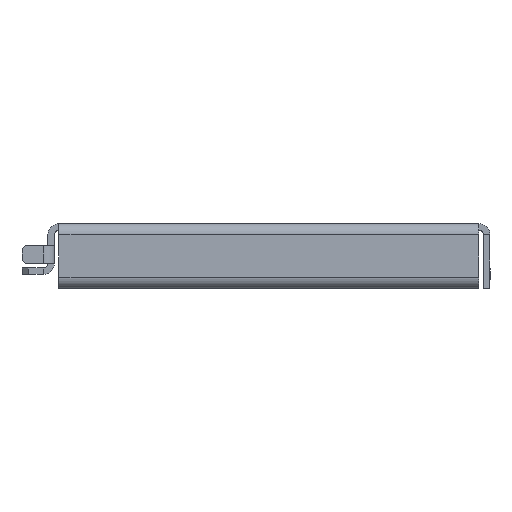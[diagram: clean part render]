
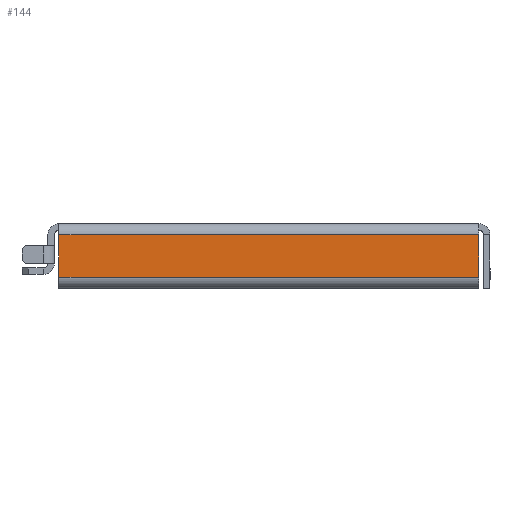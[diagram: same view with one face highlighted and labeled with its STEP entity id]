
A CAD part, front view. The second image highlights one B-rep face of the part: STEP entity #144.
In plain terms, the highlighted planar face has unit normal (0, -1, 0).
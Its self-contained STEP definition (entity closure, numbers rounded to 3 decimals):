
#144=ADVANCED_FACE('',(#1014),#1016,.T.);
#1014=FACE_BOUND('',#1015,.T.);
#1015=EDGE_LOOP('',(#1997,#1998,#1999,#2000));
#1016=PLANE('',#1017);
#1017=AXIS2_PLACEMENT_3D('',#1018,#1019,#1020);
#1018=CARTESIAN_POINT('',(0.,-73.5,0.));
#1019=DIRECTION('',(0.,-1.,0.));
#1020=DIRECTION('',(0.,0.,-1.));
#1997=ORIENTED_EDGE('',*,*,#2627,.F.);
#1998=ORIENTED_EDGE('',*,*,#2621,.T.);
#1999=ORIENTED_EDGE('',*,*,#2623,.F.);
#2000=ORIENTED_EDGE('',*,*,#2629,.F.);
#2621=EDGE_CURVE('',#3206,#3213,#3217,.T.);
#2623=EDGE_CURVE('',#3219,#3213,#3220,.T.);
#2627=EDGE_CURVE('',#3206,#3226,#3227,.T.);
#2629=EDGE_CURVE('',#3226,#3219,#3229,.T.);
#3206=VERTEX_POINT('',#4482);
#3213=VERTEX_POINT('',#4502);
#3217=LINE('',#4513,#4514);
#3219=VERTEX_POINT('',#4519);
#3220=LINE('',#4520,#4521);
#3226=VERTEX_POINT('',#4534);
#3227=LINE('',#4535,#4536);
#3229=LINE('',#4541,#4542);
#4482=CARTESIAN_POINT('',(64.75,-73.5,-3.4));
#4502=CARTESIAN_POINT('',(-64.75,-73.5,-3.4));
#4513=CARTESIAN_POINT('',(64.75,-73.5,-3.4));
#4514=VECTOR('',#4515,1.);
#4515=DIRECTION('',(-1.,0.,0.));
#4519=CARTESIAN_POINT('',(-64.75,-73.5,-16.6));
#4520=CARTESIAN_POINT('',(-64.75,-73.5,-16.6));
#4521=VECTOR('',#4522,1.);
#4522=DIRECTION('',(0.,0.,1.));
#4534=CARTESIAN_POINT('',(64.75,-73.5,-16.6));
#4535=CARTESIAN_POINT('',(64.75,-73.5,-3.4));
#4536=VECTOR('',#4537,1.);
#4537=DIRECTION('',(0.,0.,-1.));
#4541=CARTESIAN_POINT('',(64.75,-73.5,-16.6));
#4542=VECTOR('',#4543,1.);
#4543=DIRECTION('',(-1.,0.,0.));
